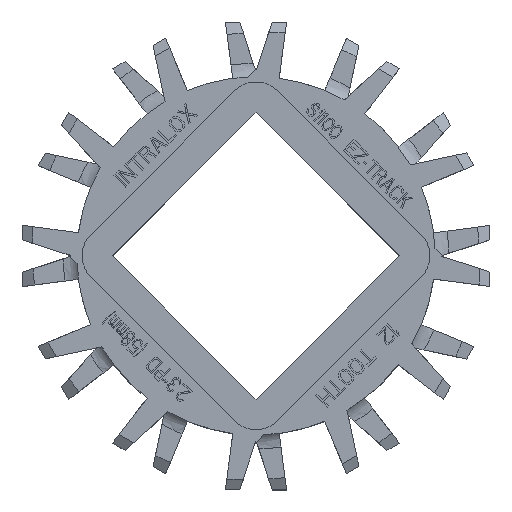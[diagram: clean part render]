
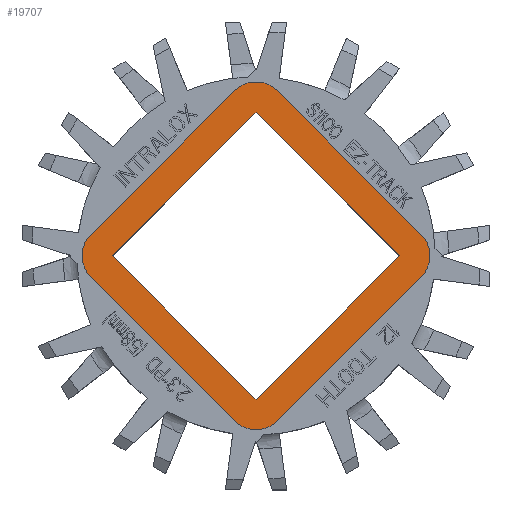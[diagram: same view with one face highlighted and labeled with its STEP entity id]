
A CAD part, top view. The second image highlights one B-rep face of the part: STEP entity #19707.
In plain terms, the highlighted planar face has unit normal (0, 0, 1).
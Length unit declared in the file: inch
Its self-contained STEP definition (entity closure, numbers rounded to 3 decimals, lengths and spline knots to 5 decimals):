
#695=CARTESIAN_POINT('',(0.,0.70711,0.49));
#696=DIRECTION('',(0.,0.,1.));
#697=DIRECTION('',(0.707,0.707,0.));
#698=AXIS2_PLACEMENT_3D('',#695,#696,#697);
#709=DIRECTION('',(-0.707,0.707,0.));
#710=VECTOR('',#709,1.);
#711=CARTESIAN_POINT('',(0.81317,0.10607,0.49));
#712=LINE('',#711,#710);
#713=DIRECTION('',(0.707,0.707,0.));
#714=VECTOR('',#713,1.);
#715=CARTESIAN_POINT('',(0.10607,-0.81317,0.49));
#716=LINE('',#715,#714);
#717=DIRECTION('',(0.707,-0.707,0.));
#718=VECTOR('',#717,1.);
#719=CARTESIAN_POINT('',(-0.81317,-0.10607,0.49));
#720=LINE('',#719,#718);
#721=DIRECTION('',(-0.707,-0.707,0.));
#722=VECTOR('',#721,1.);
#723=CARTESIAN_POINT('',(-0.10607,0.81317,0.49));
#724=LINE('',#723,#722);
#725=DIRECTION('',(0.707,0.707,0.));
#726=VECTOR('',#725,1.);
#727=CARTESIAN_POINT('',(0.,-0.70711,0.49));
#728=LINE('',#727,#726);
#729=DIRECTION('',(-0.707,0.707,0.));
#730=VECTOR('',#729,1.);
#731=CARTESIAN_POINT('',(0.70711,0.,0.49));
#732=LINE('',#731,#730);
#733=DIRECTION('',(-0.707,-0.707,0.));
#734=VECTOR('',#733,1.);
#735=CARTESIAN_POINT('',(0.,0.70711,0.49));
#736=LINE('',#735,#734);
#737=DIRECTION('',(0.707,-0.707,0.));
#738=VECTOR('',#737,1.);
#739=CARTESIAN_POINT('',(-0.70711,0.,0.49));
#740=LINE('',#739,#738);
#745=CARTESIAN_POINT('',(0.70711,0.,0.49));
#746=DIRECTION('',(0.,0.,1.));
#747=DIRECTION('',(0.707,-0.707,0.));
#748=AXIS2_PLACEMENT_3D('',#745,#746,#747);
#821=CARTESIAN_POINT('',(0.,-0.70711,0.49));
#822=DIRECTION('',(0.,0.,1.));
#823=DIRECTION('',(-0.707,-0.707,0.));
#824=AXIS2_PLACEMENT_3D('',#821,#822,#823);
#897=CARTESIAN_POINT('',(-0.70711,0.,0.49));
#898=DIRECTION('',(0.,0.,1.));
#899=DIRECTION('',(-0.707,0.707,0.));
#900=AXIS2_PLACEMENT_3D('',#897,#898,#899);
#14104=CARTESIAN_POINT('',(0.10607,0.81317,0.49));
#14106=VERTEX_POINT('',#14104);
#14108=CARTESIAN_POINT('',(-0.10607,0.81317,0.49));
#14109=VERTEX_POINT('',#14108);
#14116=CARTESIAN_POINT('',(-0.81317,0.10607,0.49));
#14118=VERTEX_POINT('',#14116);
#14120=CARTESIAN_POINT('',(-0.81317,-0.10607,0.49));
#14121=VERTEX_POINT('',#14120);
#14140=CARTESIAN_POINT('',(-0.10607,-0.81317,0.49));
#14142=VERTEX_POINT('',#14140);
#14144=CARTESIAN_POINT('',(0.10607,-0.81317,0.49));
#14145=VERTEX_POINT('',#14144);
#14164=CARTESIAN_POINT('',(0.81317,-0.10607,0.49));
#14166=VERTEX_POINT('',#14164);
#14168=CARTESIAN_POINT('',(0.81317,0.10607,0.49));
#14169=VERTEX_POINT('',#14168);
#18184=CARTESIAN_POINT('',(0.,-0.70711,0.49));
#18185=CARTESIAN_POINT('',(0.70711,0.,0.49));
#18186=VERTEX_POINT('',#18184);
#18187=VERTEX_POINT('',#18185);
#18188=CARTESIAN_POINT('',(0.,0.70711,0.49));
#18189=VERTEX_POINT('',#18188);
#18190=CARTESIAN_POINT('',(-0.70711,0.,0.49));
#18191=VERTEX_POINT('',#18190);
#19676=CARTESIAN_POINT('',(0.,0.,0.49));
#19677=DIRECTION('',(0.,0.,1.));
#19678=DIRECTION('',(1.,0.,0.));
#19679=AXIS2_PLACEMENT_3D('',#19676,#19677,#19678);
#19680=PLANE('',#19679);
#19681=ORIENTED_EDGE('',*,*,#19667,.F.);
#19682=ORIENTED_EDGE('',*,*,#19584,.F.);
#19684=ORIENTED_EDGE('',*,*,#19683,.F.);
#19686=ORIENTED_EDGE('',*,*,#19685,.F.);
#19688=ORIENTED_EDGE('',*,*,#19687,.F.);
#19690=ORIENTED_EDGE('',*,*,#19689,.F.);
#19692=ORIENTED_EDGE('',*,*,#19691,.F.);
#19694=ORIENTED_EDGE('',*,*,#19693,.F.);
#19695=EDGE_LOOP('',(#19681,#19682,#19684,#19686,#19688,#19690,#19692,#19694));
#19696=FACE_OUTER_BOUND('',#19695,.F.);
#19698=ORIENTED_EDGE('',*,*,#19697,.T.);
#19700=ORIENTED_EDGE('',*,*,#19699,.T.);
#19702=ORIENTED_EDGE('',*,*,#19701,.T.);
#19704=ORIENTED_EDGE('',*,*,#19703,.T.);
#19705=EDGE_LOOP('',(#19698,#19700,#19702,#19704));
#19706=FACE_BOUND('',#19705,.F.);
#19707=ADVANCED_FACE('',(#19696,#19706),#19680,.T.);
#699=CIRCLE('',#698,0.15);
#749=CIRCLE('',#748,0.15);
#825=CIRCLE('',#824,0.15);
#901=CIRCLE('',#900,0.15);
#19584=EDGE_CURVE('',#14169,#14106,#712,.T.);
#19667=EDGE_CURVE('',#14106,#14109,#699,.T.);
#19683=EDGE_CURVE('',#14166,#14169,#749,.T.);
#19685=EDGE_CURVE('',#14145,#14166,#716,.T.);
#19687=EDGE_CURVE('',#14142,#14145,#825,.T.);
#19689=EDGE_CURVE('',#14121,#14142,#720,.T.);
#19691=EDGE_CURVE('',#14118,#14121,#901,.T.);
#19693=EDGE_CURVE('',#14109,#14118,#724,.T.);
#19697=EDGE_CURVE('',#18186,#18187,#728,.T.);
#19699=EDGE_CURVE('',#18187,#18189,#732,.T.);
#19701=EDGE_CURVE('',#18189,#18191,#736,.T.);
#19703=EDGE_CURVE('',#18191,#18186,#740,.T.);
